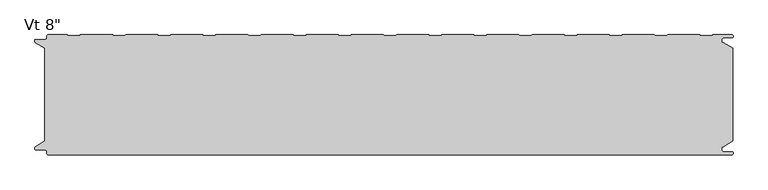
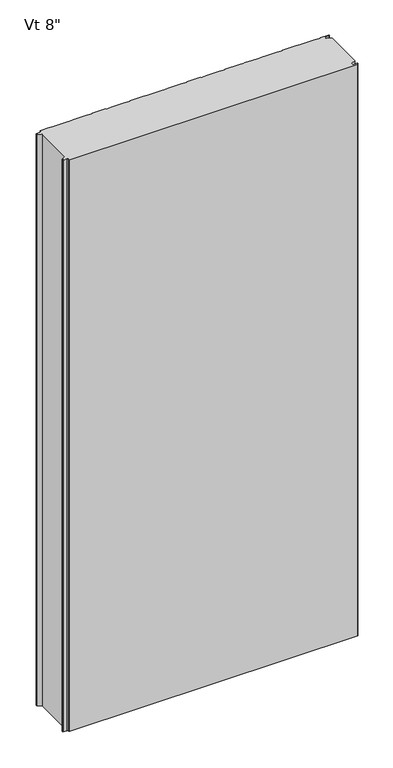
"""IFC4 building model written with IfcOpenShell, lengths in millimetres: plate geometry."""

from ifc_helpers import new_model, si_unit, frame, origin, place, context, project, spatial, polyline, circle_curve, source, transform, mapped, element, save
from ifc_brep_helpers import plane_surface, cylinder_surface, revolved_surface, advanced_brep


def plate_881e7684(model_context):
    return source(origin(), model_context, "Body", "AdvancedBrep", [
        advanced_brep(
        [(-572.4125501, -200.2227194, 2400.0), (-570.4352761, -202.1999935, 2400.0), (574.5475652, -202.2, 2400.0), (576.5248337, -200.2227315, 2400.0), (576.5248337, -199.1806329, 2400.0), (574.5475652, -197.2033643, 2400.0), (560.3591802, -197.2033643, 2400.0), (557.7713036, -194.6154878, 2400.0), (557.7713036, -190.2950697, 2400.0), (557.1628365, -189.7060762, 2400.0), (554.7857432, -189.7060762, 2400.0), (554.7857432, -188.7066023, 2400.0), (560.2280123, -188.7066023, 2400.0), (576.2625, -179.4490865, 2400.0), (576.2625, -23.7509179, 2400.0), (560.2280123, -14.4934021, 2400.0), (554.7857432, -14.4934021, 2400.0), (554.7857432, -13.4939282, 2400.0), (557.1628365, -13.4939282, 2400.0), (557.7713036, -12.9049347, 2400.0), (557.7713036, -8.5845165, 2400.0), (560.3591802, -5.99664, 2400.0), (574.5475652, -5.99664, 2400.0), (576.5248337, -4.0193715, 2400.0), (576.5248337, -2.9772729, 2400.0), (574.5475652, -1.0000044, 2400.0), (542.3760351, -1.0000044, 2400.0), (541.3035142, -2.1911595, 2400.0), (521.5205195, -2.1911595, 2400.0), (520.4479947, -1.0, 2400.0), (466.7534187, -1.0, 2400.0), (465.6808939, -2.1911595, 2400.0), (445.8978992, -2.1911595, 2400.0), (444.8253744, -1.0, 2400.0), (391.1307985, -1.0, 2400.0), (390.0582736, -2.1911595, 2400.0), (370.275279, -2.1911595, 2400.0), (369.2027541, -1.0, 2400.0), (315.5081782, -1.0, 2400.0), (314.4356534, -2.1911595, 2400.0), (294.6526587, -2.1911595, 2400.0), (293.5801339, -1.0, 2400.0), (239.885558, -1.0, 2400.0), (238.8130331, -2.1911595, 2400.0), (219.0300384, -2.1911595, 2400.0), (217.9575136, -1.0, 2400.0), (164.2629377, -1.0, 2400.0), (163.1904129, -2.1911595, 2400.0), (143.4074182, -2.1911595, 2400.0), (142.3348933, -1.0, 2400.0), (88.6403174, -1.0, 2400.0), (87.5677926, -2.1911595, 2400.0), (67.7847979, -2.1911595, 2400.0), (66.7122731, -1.0, 2400.0), (13.0176972, -1.0, 2400.0), (11.9451723, -2.1911595, 2400.0), (-7.8378224, -2.1911595, 2400.0), (-8.9103472, -1.0, 2400.0), (-62.6049231, -1.0, 2400.0), (-63.6774479, -2.1911595, 2400.0), (-83.4604426, -2.1911595, 2400.0), (-84.5329675, -1.0, 2400.0), (-138.2275434, -1.0, 2400.0), (-139.3000682, -2.1911595, 2400.0), (-159.0830629, -2.1911595, 2400.0), (-160.1555877, -1.0, 2400.0), (-213.8501636, -1.0, 2400.0), (-214.9226885, -2.1911595, 2400.0), (-234.7056831, -2.1911595, 2400.0), (-235.778208, -1.0, 2400.0), (-289.4727839, -1.0, 2400.0), (-290.5453087, -2.1911595, 2400.0), (-310.3283034, -2.1911595, 2400.0), (-311.4008282, -1.0, 2400.0), (-365.0954042, -1.0, 2400.0), (-366.167929, -2.1911595, 2400.0), (-385.9509237, -2.1911595, 2400.0), (-387.0234485, -1.0, 2400.0), (-440.7180244, -1.0, 2400.0), (-441.7905493, -2.1911595, 2400.0), (-461.5735439, -2.1911595, 2400.0), (-462.6460688, -1.0, 2400.0), (-516.3406447, -1.0, 2400.0), (-517.4131695, -2.1911595, 2400.0), (-537.1961642, -2.1911595, 2400.0), (-538.268689, -1.0000109, 2400.0), (-570.4352761, -1.0000109, 2400.0), (-572.4125501, -2.9772849, 2400.0), (-572.4125501, -5.2691749, 2400.0), (-576.3898173, -9.246442, 2400.0), (-591.9862417, -9.246442, 2400.0), (-592.5741186, -9.8343189, 2400.0), (-592.5741186, -12.9058679, 2400.0), (-591.986242, -13.4937446, 2400.0), (-589.6312064, -13.4937446, 2400.0), (-589.6312064, -14.4937446, 2400.0), (-591.9207851, -14.4937446, 2400.0), (-576.2625, -23.7509179, 2400.0), (-576.2625, -179.4490865, 2400.0), (-591.9207851, -188.7062598, 2400.0), (-589.6312064, -188.7062598, 2400.0), (-589.6312064, -189.7062598, 2400.0), (-591.986242, -189.7062598, 2400.0), (-592.5741186, -190.2941365, 2400.0), (-592.5741186, -193.3656854, 2400.0), (-591.9862417, -193.9535623, 2400.0), (-576.3898173, -193.9535623, 2400.0), (-572.4125501, -197.9308295, 2400.0), (-572.4125501, -200.2227194, 0.0), (-572.4125501, -197.9308295, 0.0), (-576.3898173, -193.9535623, 0.0), (-591.9862417, -193.9535623, 0.0), (-592.5741186, -193.3656854, 0.0), (-592.5741186, -190.2941365, 0.0), (-591.986242, -189.7062598, 0.0), (-589.6312064, -189.7062598, 0.0), (-589.6312064, -188.7062598, 0.0), (-591.9207851, -188.7062598, 0.0), (-576.2625, -179.4490865, 0.0), (-576.2625, -23.7509179, 0.0), (-591.9207851, -14.4937446, 0.0), (-589.6312064, -14.4937446, 0.0), (-589.6312064, -13.4937446, 0.0), (-591.986242, -13.4937446, 0.0), (-592.5741186, -12.9058679, 0.0), (-592.5741186, -9.8343189, 0.0), (-591.9862417, -9.246442, 0.0), (-576.3898173, -9.246442, 0.0), (-572.4125501, -5.2691749, 0.0), (-572.4125501, -2.9772849, 0.0), (-570.4352761, -1.0000109, 0.0), (-538.268689, -1.0000109, 0.0), (-537.1961642, -2.1911595, 0.0), (-517.4131695, -2.1911595, 0.0), (-516.3406447, -1.0, 0.0), (-462.6460688, -1.0, 0.0), (-461.5735439, -2.1911595, 0.0), (-441.7905493, -2.1911595, 0.0), (-440.7180244, -1.0, 0.0), (-387.0234485, -1.0, 0.0), (-385.9509237, -2.1911595, 0.0), (-366.167929, -2.1911595, 0.0), (-365.0954042, -1.0, 0.0), (-311.4008282, -1.0, 0.0), (-310.3283034, -2.1911595, 0.0), (-290.5453087, -2.1911595, 0.0), (-289.4727839, -1.0, 0.0), (-235.778208, -1.0, 0.0), (-234.7056831, -2.1911595, 0.0), (-214.9226885, -2.1911595, 0.0), (-213.8501636, -1.0, 0.0), (-160.1555877, -1.0, 0.0), (-159.0830629, -2.1911595, 0.0), (-139.3000682, -2.1911595, 0.0), (-138.2275434, -1.0, 0.0), (-84.5329675, -1.0, 0.0), (-83.4604426, -2.1911595, 0.0), (-63.6774479, -2.1911595, 0.0), (-62.6049231, -1.0, 0.0), (-8.9103472, -1.0, 0.0), (-7.8378224, -2.1911595, 0.0), (11.9451723, -2.1911595, 0.0), (13.0176972, -1.0, 0.0), (66.7122731, -1.0, 0.0), (67.7847979, -2.1911595, 0.0), (87.5677926, -2.1911595, 0.0), (88.6403174, -1.0, 0.0), (142.3348933, -1.0, 0.0), (143.4074182, -2.1911595, 0.0), (163.1904129, -2.1911595, 0.0), (164.2629377, -1.0, 0.0), (217.9575136, -1.0, 0.0), (219.0300384, -2.1911595, 0.0), (238.8130331, -2.1911595, 0.0), (239.885558, -1.0, 0.0), (293.5801339, -1.0, 0.0), (294.6526587, -2.1911595, 0.0), (314.4356534, -2.1911595, 0.0), (315.5081782, -1.0, 0.0), (369.2027541, -1.0, 0.0), (370.275279, -2.1911595, 0.0), (390.0582736, -2.1911595, 0.0), (391.1307985, -1.0, 0.0), (444.8253744, -1.0, 0.0), (445.8978992, -2.1911595, 0.0), (465.6808939, -2.1911595, 0.0), (466.7534187, -1.0, 0.0), (520.4479947, -1.0, 0.0), (521.5205195, -2.1911595, 0.0), (541.3035142, -2.1911595, 0.0), (542.3760351, -1.0000044, 0.0), (574.5475652, -1.0000044, 0.0), (576.5248337, -2.9772729, 0.0), (576.5248337, -4.0193715, 0.0), (574.5475652, -5.99664, 0.0), (560.3591802, -5.99664, 0.0), (557.7713036, -8.5845165, 0.0), (557.7713036, -12.9049347, 0.0), (557.1628365, -13.4939282, 0.0), (554.7857432, -13.4939282, 0.0), (554.7857432, -14.4934021, 0.0), (560.2280123, -14.4934021, 0.0), (576.2625, -23.7509179, 0.0), (576.2625, -179.4490865, 0.0), (560.2280123, -188.7066023, 0.0), (554.7857432, -188.7066023, 0.0), (554.7857432, -189.7060762, 0.0), (557.1628365, -189.7060762, 0.0), (557.7713036, -190.2950697, 0.0), (557.7713036, -194.6154878, 0.0), (560.3591802, -197.2033643, 0.0), (574.5475652, -197.2033643, 0.0), (576.5248337, -199.1806329, 0.0), (576.5248337, -200.2227315, 0.0), (574.5475652, -202.2, 0.0), (-570.4352761, -202.2, 0.0)],
        [
            (0, 1, circle_curve(frame((-570.4352761, -200.2227194, 2400.0), z_axis=(0.0, 0.0, 1.0), x_axis=(-1.0, 0.0, 0.0)), 1.977274)),
            (1, 2),
            (2, 3, circle_curve(frame((574.5475652, -200.2227315, 2400.0), z_axis=(0.0, 0.0, 1.0), x_axis=(-1.0, 0.0, 0.0)), 1.9772685)),
            (3, 4),
            (4, 5, circle_curve(frame((574.5475652, -199.1806329, 2400.0), z_axis=(0.0, 0.0, 1.0), x_axis=(-1.0, 0.0, 0.0)), 1.9772685)),
            (5, 6),
            (6, 7, circle_curve(frame((560.3591802, -194.6154878, 2400.0), z_axis=(0.0, 0.0, -1.0), x_axis=(-1.0, 0.0, 0.0)), 2.5878765)),
            (7, 8),
            (8, 9, circle_curve(frame((557.1819985, -190.2950697, 2400.0), z_axis=(0.0, 0.0, 1.0), x_axis=(-1.0, 0.0, 0.0)), 0.5893051)),
            (9, 10),
            (10, 11),
            (11, 12),
            (12, 13),
            (13, 14),
            (14, 15),
            (15, 16),
            (16, 17),
            (17, 18),
            (18, 19, circle_curve(frame((557.1819985, -12.9049347, 2400.0), z_axis=(0.0, 0.0, 1.0), x_axis=(0.0, 1.0, 0.0)), 0.5893051)),
            (19, 20),
            (20, 21, circle_curve(frame((560.3591802, -8.5845165, 2400.0), z_axis=(0.0, 0.0, -1.0), x_axis=(0.0, 1.0, 0.0)), 2.5878765)),
            (21, 22),
            (22, 23, circle_curve(frame((574.5475652, -4.0193715, 2400.0), z_axis=(0.0, 0.0, 1.0), x_axis=(0.0, 1.0, 0.0)), 1.9772685)),
            (23, 24),
            (24, 25, circle_curve(frame((574.5475652, -2.9772729, 2400.0), z_axis=(0.0, 0.0, 1.0), x_axis=(0.0, 1.0, 0.0)), 1.9772685)),
            (25, 26),
            (26, 27),
            (27, 28),
            (28, 29),
            (29, 30),
            (30, 31),
            (31, 32),
            (32, 33),
            (33, 34),
            (34, 35),
            (35, 36),
            (36, 37),
            (37, 38),
            (38, 39),
            (39, 40),
            (40, 41),
            (41, 42),
            (42, 43),
            (43, 44),
            (44, 45),
            (45, 46),
            (46, 47),
            (47, 48),
            (48, 49),
            (49, 50),
            (50, 51),
            (51, 52),
            (52, 53),
            (53, 54),
            (54, 55),
            (55, 56),
            (56, 57),
            (57, 58),
            (58, 59),
            (59, 60),
            (60, 61),
            (61, 62),
            (62, 63),
            (63, 64),
            (64, 65),
            (65, 66),
            (66, 67),
            (67, 68),
            (68, 69),
            (69, 70),
            (70, 71),
            (71, 72),
            (72, 73),
            (73, 74),
            (74, 75),
            (75, 76),
            (76, 77),
            (77, 78),
            (78, 79),
            (79, 80),
            (80, 81),
            (81, 82),
            (82, 83),
            (83, 84),
            (84, 85),
            (85, 86),
            (86, 87, circle_curve(frame((-570.4352761, -2.9772849, 2400.0), z_axis=(0.0, 0.0, 1.0), x_axis=(0.0, 1.0, 0.0)), 1.977274)),
            (87, 88),
            (88, 89, circle_curve(frame((-576.3898173, -5.2691749, 2400.0), z_axis=(0.0, 0.0, -1.0), x_axis=(0.0, 1.0, 0.0)), 3.9772671)),
            (89, 90),
            (90, 91, circle_curve(frame((-591.9862417, -9.8343189, 2400.0), z_axis=(0.0, 0.0, 1.0), x_axis=(0.0, 1.0, 0.0)), 0.5878769)),
            (91, 92),
            (92, 93, circle_curve(frame((-591.986242, -12.9058679, 2400.0), z_axis=(0.0, 0.0, 1.0), x_axis=(0.0, 1.0, 0.0)), 0.5878766)),
            (93, 94),
            (94, 95),
            (95, 96),
            (96, 97),
            (97, 98),
            (98, 99),
            (99, 100),
            (100, 101),
            (101, 102),
            (102, 103, circle_curve(frame((-591.986242, -190.2941365, 2400.0), z_axis=(0.0, 0.0, 1.0), x_axis=(-1.0, 0.0, 0.0)), 0.5878766)),
            (103, 104),
            (104, 105, circle_curve(frame((-591.9862417, -193.3656854, 2400.0), z_axis=(0.0, 0.0, 1.0), x_axis=(-1.0, 0.0, 0.0)), 0.5878769)),
            (105, 106),
            (106, 107, circle_curve(frame((-576.3898173, -197.9308295, 2400.0), z_axis=(0.0, 0.0, -1.0), x_axis=(-1.0, 0.0, 0.0)), 3.9772671)),
            (107, 0),
            (108, 109),
            (109, 110, circle_curve(frame((-576.3898173, -197.9308295, 0.0), z_axis=(0.0, 0.0, 1.0), x_axis=(-1.0, 0.0, 0.0)), 3.9772671)),
            (110, 111),
            (111, 112, circle_curve(frame((-591.9862417, -193.3656854, 0.0), z_axis=(0.0, 0.0, -1.0), x_axis=(-1.0, 0.0, 0.0)), 0.5878769)),
            (112, 113),
            (113, 114, circle_curve(frame((-591.986242, -190.2941365, 0.0), z_axis=(0.0, 0.0, -1.0), x_axis=(-1.0, 0.0, 0.0)), 0.5878766)),
            (114, 115),
            (115, 116),
            (116, 117),
            (117, 118),
            (118, 119),
            (119, 120),
            (120, 121),
            (121, 122),
            (122, 123),
            (123, 124, circle_curve(frame((-591.986242, -12.9058679, 0.0), z_axis=(0.0, 0.0, -1.0), x_axis=(0.0, 1.0, 0.0)), 0.5878766)),
            (124, 125),
            (125, 126, circle_curve(frame((-591.9862417, -9.8343189, 0.0), z_axis=(0.0, 0.0, -1.0), x_axis=(0.0, 1.0, 0.0)), 0.5878769)),
            (126, 127),
            (127, 128, circle_curve(frame((-576.3898173, -5.2691749, 0.0), z_axis=(0.0, 0.0, 1.0), x_axis=(0.0, 1.0, 0.0)), 3.9772671)),
            (128, 129),
            (129, 130, circle_curve(frame((-570.4352761, -2.9772849, 0.0), z_axis=(0.0, 0.0, -1.0), x_axis=(0.0, 1.0, 0.0)), 1.977274)),
            (130, 131),
            (131, 132),
            (132, 133),
            (133, 134),
            (134, 135),
            (135, 136),
            (136, 137),
            (137, 138),
            (138, 139),
            (139, 140),
            (140, 141),
            (141, 142),
            (142, 143),
            (143, 144),
            (144, 145),
            (145, 146),
            (146, 147),
            (147, 148),
            (148, 149),
            (149, 150),
            (150, 151),
            (151, 152),
            (152, 153),
            (153, 154),
            (154, 155),
            (155, 156),
            (156, 157),
            (157, 158),
            (158, 159),
            (159, 160),
            (160, 161),
            (161, 162),
            (162, 163),
            (163, 164),
            (164, 165),
            (165, 166),
            (166, 167),
            (167, 168),
            (168, 169),
            (169, 170),
            (170, 171),
            (171, 172),
            (172, 173),
            (173, 174),
            (174, 175),
            (175, 176),
            (176, 177),
            (177, 178),
            (178, 179),
            (179, 180),
            (180, 181),
            (181, 182),
            (182, 183),
            (183, 184),
            (184, 185),
            (185, 186),
            (186, 187),
            (187, 188),
            (188, 189),
            (189, 190),
            (190, 191),
            (191, 192, circle_curve(frame((574.5475652, -2.9772729, 0.0), z_axis=(0.0, 0.0, -1.0), x_axis=(0.0, 1.0, 0.0)), 1.9772685)),
            (192, 193),
            (193, 194, circle_curve(frame((574.5475652, -4.0193715, 0.0), z_axis=(0.0, 0.0, -1.0), x_axis=(0.0, 1.0, 0.0)), 1.9772685)),
            (194, 195),
            (195, 196, circle_curve(frame((560.3591802, -8.5845165, 0.0), z_axis=(0.0, 0.0, 1.0), x_axis=(0.0, 1.0, 0.0)), 2.5878765)),
            (196, 197),
            (197, 198, circle_curve(frame((557.1819985, -12.9049347, 0.0), z_axis=(0.0, 0.0, -1.0), x_axis=(0.0, 1.0, 0.0)), 0.5893051)),
            (198, 199),
            (199, 200),
            (200, 201),
            (201, 202),
            (202, 203),
            (203, 204),
            (204, 205),
            (205, 206),
            (206, 207),
            (207, 208, circle_curve(frame((557.1819985, -190.2950697, 0.0), z_axis=(0.0, 0.0, -1.0), x_axis=(-1.0, 0.0, 0.0)), 0.5893051)),
            (208, 209),
            (209, 210, circle_curve(frame((560.3591802, -194.6154878, 0.0), z_axis=(0.0, 0.0, 1.0), x_axis=(-1.0, 0.0, 0.0)), 2.5878765)),
            (210, 211),
            (211, 212, circle_curve(frame((574.5475652, -199.1806329, 0.0), z_axis=(0.0, 0.0, -1.0), x_axis=(-1.0, 0.0, 0.0)), 1.9772685)),
            (212, 213),
            (213, 214, circle_curve(frame((574.5475652, -200.2227315, 0.0), z_axis=(0.0, 0.0, -1.0), x_axis=(-1.0, 0.0, 0.0)), 1.9772685)),
            (214, 215),
            (215, 108, circle_curve(frame((-570.4352761, -200.2227194, 0.0), z_axis=(0.0, 0.0, -1.0), x_axis=(-1.0, 0.0, 0.0)), 1.977274)),
            (97, 119),
            (118, 98),
            (13, 203),
            (202, 14),
            (27, 189),
            (188, 28),
            (26, 190),
            (25, 191),
            (24, 192),
            (23, 193),
            (22, 194),
            (21, 195),
            (20, 196),
            (19, 197),
            (18, 198),
            (17, 199),
            (16, 200),
            (15, 201),
            (96, 120),
            (95, 121),
            (94, 122),
            (93, 123),
            (92, 124),
            (91, 125),
            (90, 126),
            (89, 127),
            (88, 128),
            (87, 129),
            (86, 130),
            (85, 131),
            (84, 132),
            (83, 133),
            (82, 134),
            (81, 135),
            (80, 136),
            (79, 137),
            (78, 138),
            (77, 139),
            (76, 140),
            (75, 141),
            (74, 142),
            (73, 143),
            (72, 144),
            (71, 145),
            (70, 146),
            (69, 147),
            (68, 148),
            (67, 149),
            (66, 150),
            (65, 151),
            (64, 152),
            (63, 153),
            (62, 154),
            (61, 155),
            (60, 156),
            (59, 157),
            (58, 158),
            (57, 159),
            (56, 160),
            (55, 161),
            (54, 162),
            (53, 163),
            (52, 164),
            (51, 165),
            (50, 166),
            (49, 167),
            (48, 168),
            (47, 169),
            (46, 170),
            (45, 171),
            (44, 172),
            (43, 173),
            (42, 174),
            (41, 175),
            (40, 176),
            (39, 177),
            (38, 178),
            (37, 179),
            (36, 180),
            (35, 181),
            (34, 182),
            (33, 183),
            (32, 184),
            (31, 185),
            (30, 186),
            (29, 187),
            (107, 109),
            (108, 0),
            (106, 110),
            (105, 111),
            (104, 112),
            (103, 113),
            (102, 114),
            (101, 115),
            (100, 116),
            (99, 117),
            (12, 204),
            (11, 205),
            (10, 206),
            (9, 207),
            (8, 208),
            (7, 209),
            (6, 210),
            (5, 211),
            (4, 212),
            (3, 213),
            (2, 214),
            (1, 215),
        ],
        [
            plane_surface(frame((0.0, -202.2, 2400.0), z_axis=(0.0, 0.0, 1.0), x_axis=(0.0, -1.0, 0.0))),
            plane_surface(frame((0.0, -202.2, 0.0), z_axis=(0.0, 0.0, -1.0), x_axis=(0.0, -1.0, 0.0))),
            plane_surface(frame((-576.2625, -179.4490865, 2400.0), z_axis=(-1.0, 0.0, 0.0), x_axis=(0.0, 0.0, -1.0))),
            plane_surface(frame((576.2625, -23.7509179, 2400.0), z_axis=(1.0, 0.0, 0.0), x_axis=(0.0, 0.0, -1.0))),
            plane_surface(frame((521.5205195, -2.1911595, 2400.0), z_axis=(0.0, 1.0, 0.0), x_axis=(0.0, 0.0, -1.0))),
            plane_surface(frame((541.3035142, -2.1911595, 2400.0), z_axis=(-0.7431448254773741, 0.6691306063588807, 0.0), x_axis=(0.0, 0.0, -1.0))),
            plane_surface(frame((542.3760351, -1.0000044, 2400.0), z_axis=(0.0, 1.0, 0.0), x_axis=(0.0, 0.0, -1.0))),
            cylinder_surface(frame((574.5475652, -2.9772729, 2400.0), z_axis=(0.0, 0.0, 1.0), x_axis=(0.0, 1.0, 0.0)), 1.9772685),
            plane_surface(frame((576.5248337, -2.9772729, 2400.0), z_axis=(1.0, 0.0, 0.0), x_axis=(0.0, 0.0, -1.0))),
            cylinder_surface(frame((574.5475652, -4.0193715, 2400.0), z_axis=(0.0, 0.0, 1.0), x_axis=(0.0, 1.0, 0.0)), 1.9772685),
            plane_surface(frame((574.5475652, -5.99664, 2400.0), z_axis=(0.0, -1.0, 0.0), x_axis=(0.0, 0.0, -1.0))),
            revolved_surface(polyline([(560.3591802, -5.996639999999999, 0.0), (560.3591802, -5.996639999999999, 2400.0)]), (560.3591802, -8.5845165, 2400.0), (0.0, 0.0, -1.0)),
            plane_surface(frame((557.7713036, -8.5845165, 2400.0), z_axis=(1.0, 0.0, 0.0), x_axis=(0.0, 0.0, -1.0))),
            cylinder_surface(frame((557.1819985, -12.9049347, 2400.0), z_axis=(0.0, 0.0, 1.0), x_axis=(0.0, 1.0, 0.0)), 0.5893051),
            plane_surface(frame((557.1628365, -13.4939282, 2400.0), z_axis=(0.0, -1.0, 0.0), x_axis=(0.0, 0.0, -1.0))),
            plane_surface(frame((554.7857432, -13.4939282, 2400.0), z_axis=(1.0, 0.0, 0.0), x_axis=(0.0, 0.0, -1.0))),
            plane_surface(frame((554.7857432, -14.4934021, 2400.0), z_axis=(0.0, 1.0, 0.0), x_axis=(0.0, 0.0, -1.0))),
            plane_surface(frame((560.2280123, -14.4934021, 2400.0), z_axis=(0.5000000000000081, 0.866025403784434, 0.0), x_axis=(0.0, 0.0, -1.0))),
            plane_surface(frame((-576.2625, -23.7509179, 2400.0), z_axis=(-0.5089147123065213, -0.860816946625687, 0.0), x_axis=(0.0, 0.0, -1.0))),
            plane_surface(frame((-591.9207851, -14.4937446, 2400.0), z_axis=(0.0, 1.0, 0.0), x_axis=(0.0, 0.0, -1.0))),
            plane_surface(frame((-589.6312064, -14.4937446, 2400.0), z_axis=(-1.0, 0.0, 0.0), x_axis=(0.0, 0.0, -1.0))),
            plane_surface(frame((-589.6312064, -13.4937446, 2400.0), z_axis=(0.0, -1.0, 0.0), x_axis=(0.0, 0.0, -1.0))),
            cylinder_surface(frame((-591.986242, -12.9058679, 2400.0), z_axis=(0.0, 0.0, 1.0), x_axis=(0.0, 1.0, 0.0)), 0.5878766),
            plane_surface(frame((-592.5741186, -12.9058679, 2400.0), z_axis=(-1.0, 0.0, 0.0), x_axis=(0.0, 0.0, -1.0))),
            cylinder_surface(frame((-591.9862417, -9.8343189, 2400.0), z_axis=(0.0, 0.0, 1.0), x_axis=(0.0, 1.0, 0.0)), 0.5878769),
            plane_surface(frame((-591.9862417, -9.246442, 2400.0), z_axis=(0.0, 1.0, 0.0), x_axis=(0.0, 0.0, -1.0))),
            revolved_surface(polyline([(-576.3898173, -1.2919078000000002, 0.0), (-576.3898173, -1.2919078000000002, 2400.0)]), (-576.3898173, -5.2691749, 2400.0), (0.0, 0.0, -1.0)),
            plane_surface(frame((-572.4125501, -5.2691749, 2400.0), z_axis=(-1.0, 0.0, 0.0), x_axis=(0.0, 0.0, -1.0))),
            cylinder_surface(frame((-570.4352761, -2.9772849, 2400.0), z_axis=(0.0, 0.0, 1.0), x_axis=(0.0, 1.0, 0.0)), 1.977274),
            plane_surface(frame((-570.4352761, -1.0000109, 2400.0), z_axis=(0.0, 1.0, 0.0), x_axis=(0.0, 0.0, -1.0))),
            plane_surface(frame((-538.268689, -1.0000109, 2400.0), z_axis=(0.7431417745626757, 0.669133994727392, 0.0), x_axis=(0.0, 0.0, -1.0))),
            plane_surface(frame((-537.1961642, -2.1911595, 2400.0), z_axis=(0.0, 1.0, 0.0), x_axis=(0.0, 0.0, -1.0))),
            plane_surface(frame((-517.4131695, -2.1911595, 2400.0), z_axis=(-0.7431448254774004, 0.6691306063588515, 0.0), x_axis=(0.0, 0.0, -1.0))),
            plane_surface(frame((-516.3406447, -1.0, 2400.0), z_axis=(0.0, 1.0, 0.0), x_axis=(0.0, 0.0, -1.0))),
            plane_surface(frame((-462.6460688, -1.0, 2400.0), z_axis=(0.7431448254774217, 0.6691306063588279, 0.0), x_axis=(0.0, 0.0, -1.0))),
            plane_surface(frame((-461.5735439, -2.1911595, 2400.0), z_axis=(0.0, 1.0, 0.0), x_axis=(0.0, 0.0, -1.0))),
            plane_surface(frame((-441.7905493, -2.1911595, 2400.0), z_axis=(-0.7431448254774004, 0.6691306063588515, 0.0), x_axis=(0.0, 0.0, -1.0))),
            plane_surface(frame((-440.7180244, -1.0, 2400.0), z_axis=(0.0, 1.0, 0.0), x_axis=(0.0, 0.0, -1.0))),
            plane_surface(frame((-387.0234485, -1.0, 2400.0), z_axis=(0.7431448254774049, 0.6691306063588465, 0.0), x_axis=(0.0, 0.0, -1.0))),
            plane_surface(frame((-385.9509237, -2.1911595, 2400.0), z_axis=(0.0, 1.0, 0.0), x_axis=(0.0, 0.0, -1.0))),
            plane_surface(frame((-366.167929, -2.1911595, 2400.0), z_axis=(-0.7431448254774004, 0.6691306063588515, 0.0), x_axis=(0.0, 0.0, -1.0))),
            plane_surface(frame((-365.0954042, -1.0, 2400.0), z_axis=(0.0, 1.0, 0.0), x_axis=(0.0, 0.0, -1.0))),
            plane_surface(frame((-311.4008282, -1.0, 2400.0), z_axis=(0.7431448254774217, 0.6691306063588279, 0.0), x_axis=(0.0, 0.0, -1.0))),
            plane_surface(frame((-310.3283034, -2.1911595, 2400.0), z_axis=(0.0, 1.0, 0.0), x_axis=(0.0, 0.0, -1.0))),
            plane_surface(frame((-290.5453087, -2.1911595, 2400.0), z_axis=(-0.7431448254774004, 0.6691306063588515, 0.0), x_axis=(0.0, 0.0, -1.0))),
            plane_surface(frame((-289.4727839, -1.0, 2400.0), z_axis=(0.0, 1.0, 0.0), x_axis=(0.0, 0.0, -1.0))),
            plane_surface(frame((-235.778208, -1.0, 2400.0), z_axis=(0.7431448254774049, 0.6691306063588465, 0.0), x_axis=(0.0, 0.0, -1.0))),
            plane_surface(frame((-234.7056831, -2.1911595, 2400.0), z_axis=(0.0, 1.0, 0.0), x_axis=(0.0, 0.0, -1.0))),
            plane_surface(frame((-214.9226885, -2.1911595, 2400.0), z_axis=(-0.7431448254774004, 0.6691306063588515, 0.0), x_axis=(0.0, 0.0, -1.0))),
            plane_surface(frame((-213.8501636, -1.0, 2400.0), z_axis=(0.0, 1.0, 0.0), x_axis=(0.0, 0.0, -1.0))),
            plane_surface(frame((-160.1555877, -1.0, 2400.0), z_axis=(0.7431448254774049, 0.6691306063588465, 0.0), x_axis=(0.0, 0.0, -1.0))),
            plane_surface(frame((-159.0830629, -2.1911595, 2400.0), z_axis=(0.0, 1.0, 0.0), x_axis=(0.0, 0.0, -1.0))),
            plane_surface(frame((-139.3000682, -2.1911595, 2400.0), z_axis=(-0.7431448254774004, 0.6691306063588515, 0.0), x_axis=(0.0, 0.0, -1.0))),
            plane_surface(frame((-138.2275434, -1.0, 2400.0), z_axis=(0.0, 1.0, 0.0), x_axis=(0.0, 0.0, -1.0))),
            plane_surface(frame((-84.5329675, -1.0, 2400.0), z_axis=(0.7431448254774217, 0.6691306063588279, 0.0), x_axis=(0.0, 0.0, -1.0))),
            plane_surface(frame((-83.4604426, -2.1911595, 2400.0), z_axis=(0.0, 1.0, 0.0), x_axis=(0.0, 0.0, -1.0))),
            plane_surface(frame((-63.6774479, -2.1911595, 2400.0), z_axis=(-0.7431448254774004, 0.6691306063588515, 0.0), x_axis=(0.0, 0.0, -1.0))),
            plane_surface(frame((-62.6049231, -1.0, 2400.0), z_axis=(0.0, 1.0, 0.0), x_axis=(0.0, 0.0, -1.0))),
            plane_surface(frame((-8.9103472, -1.0, 2400.0), z_axis=(0.7431448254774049, 0.6691306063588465, 0.0), x_axis=(0.0, 0.0, -1.0))),
            plane_surface(frame((-7.8378224, -2.1911595, 2400.0), z_axis=(0.0, 1.0, 0.0), x_axis=(0.0, 0.0, -1.0))),
            plane_surface(frame((11.9451723, -2.1911595, 2400.0), z_axis=(-0.7431448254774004, 0.6691306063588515, 0.0), x_axis=(0.0, 0.0, -1.0))),
            plane_surface(frame((13.0176972, -1.0, 2400.0), z_axis=(0.0, 1.0, 0.0), x_axis=(0.0, 0.0, -1.0))),
            plane_surface(frame((66.7122731, -1.0, 2400.0), z_axis=(0.7431448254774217, 0.6691306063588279, 0.0), x_axis=(0.0, 0.0, -1.0))),
            plane_surface(frame((67.7847979, -2.1911595, 2400.0), z_axis=(0.0, 1.0, 0.0), x_axis=(0.0, 0.0, -1.0))),
            plane_surface(frame((87.5677926, -2.1911595, 2400.0), z_axis=(-0.7431448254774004, 0.6691306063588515, 0.0), x_axis=(0.0, 0.0, -1.0))),
            plane_surface(frame((88.6403174, -1.0, 2400.0), z_axis=(0.0, 1.0, 0.0), x_axis=(0.0, 0.0, -1.0))),
            plane_surface(frame((142.3348933, -1.0, 2400.0), z_axis=(0.7431448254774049, 0.6691306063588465, 0.0), x_axis=(0.0, 0.0, -1.0))),
            plane_surface(frame((143.4074182, -2.1911595, 2400.0), z_axis=(0.0, 1.0, 0.0), x_axis=(0.0, 0.0, -1.0))),
            plane_surface(frame((163.1904129, -2.1911595, 2400.0), z_axis=(-0.7431448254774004, 0.6691306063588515, 0.0), x_axis=(0.0, 0.0, -1.0))),
            plane_surface(frame((164.2629377, -1.0, 2400.0), z_axis=(0.0, 1.0, 0.0), x_axis=(0.0, 0.0, -1.0))),
            plane_surface(frame((217.9575136, -1.0, 2400.0), z_axis=(0.7431448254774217, 0.6691306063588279, 0.0), x_axis=(0.0, 0.0, -1.0))),
            plane_surface(frame((219.0300384, -2.1911595, 2400.0), z_axis=(0.0, 1.0, 0.0), x_axis=(0.0, 0.0, -1.0))),
            plane_surface(frame((238.8130331, -2.1911595, 2400.0), z_axis=(-0.7431448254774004, 0.6691306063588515, 0.0), x_axis=(0.0, 0.0, -1.0))),
            plane_surface(frame((239.885558, -1.0, 2400.0), z_axis=(0.0, 1.0, 0.0), x_axis=(0.0, 0.0, -1.0))),
            plane_surface(frame((293.5801339, -1.0, 2400.0), z_axis=(0.7431448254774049, 0.6691306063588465, 0.0), x_axis=(0.0, 0.0, -1.0))),
            plane_surface(frame((294.6526587, -2.1911595, 2400.0), z_axis=(0.0, 1.0, 0.0), x_axis=(0.0, 0.0, -1.0))),
            plane_surface(frame((314.4356534, -2.1911595, 2400.0), z_axis=(-0.7431448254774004, 0.6691306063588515, 0.0), x_axis=(0.0, 0.0, -1.0))),
            plane_surface(frame((315.5081782, -1.0, 2400.0), z_axis=(0.0, 1.0, 0.0), x_axis=(0.0, 0.0, -1.0))),
            plane_surface(frame((369.2027541, -1.0, 2400.0), z_axis=(0.7431448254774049, 0.6691306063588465, 0.0), x_axis=(0.0, 0.0, -1.0))),
            plane_surface(frame((370.275279, -2.1911595, 2400.0), z_axis=(0.0, 1.0, 0.0), x_axis=(0.0, 0.0, -1.0))),
            plane_surface(frame((390.0582736, -2.1911595, 2400.0), z_axis=(-0.7431448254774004, 0.6691306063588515, 0.0), x_axis=(0.0, 0.0, -1.0))),
            plane_surface(frame((391.1307985, -1.0, 2400.0), z_axis=(0.0, 1.0, 0.0), x_axis=(0.0, 0.0, -1.0))),
            plane_surface(frame((444.8253744, -1.0, 2400.0), z_axis=(0.7431448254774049, 0.6691306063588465, 0.0), x_axis=(0.0, 0.0, -1.0))),
            plane_surface(frame((445.8978992, -2.1911595, 2400.0), z_axis=(0.0, 1.0, 0.0), x_axis=(0.0, 0.0, -1.0))),
            plane_surface(frame((465.6808939, -2.1911595, 2400.0), z_axis=(-0.7431448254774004, 0.6691306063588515, 0.0), x_axis=(0.0, 0.0, -1.0))),
            plane_surface(frame((466.7534187, -1.0, 2400.0), z_axis=(0.0, 1.0, 0.0), x_axis=(0.0, 0.0, -1.0))),
            plane_surface(frame((520.4479947, -1.0, 2400.0), z_axis=(0.7431448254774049, 0.6691306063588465, 0.0), x_axis=(0.0, 0.0, -1.0))),
            plane_surface(frame((-572.4125501, -200.2227194, 2400.0), z_axis=(-1.0, 0.0, 0.0), x_axis=(0.0, 0.0, -1.0))),
            revolved_surface(polyline([(-580.3670844, -197.9308295, 0.0), (-580.3670844, -197.9308295, 2400.0)]), (-576.3898173, -197.9308295, 2400.0), (0.0, 0.0, -1.0)),
            plane_surface(frame((-576.3898173, -193.9535623, 2400.0), z_axis=(0.0, -1.0, 0.0), x_axis=(0.0, 0.0, -1.0))),
            cylinder_surface(frame((-591.9862417, -193.3656854, 2400.0), z_axis=(0.0, 0.0, 1.0), x_axis=(-1.0, 0.0, 0.0)), 0.5878769),
            plane_surface(frame((-592.5741186, -193.3656854, 2400.0), z_axis=(-1.0, 0.0, 0.0), x_axis=(0.0, 0.0, -1.0))),
            cylinder_surface(frame((-591.986242, -190.2941365, 2400.0), z_axis=(0.0, 0.0, 1.0), x_axis=(-1.0, 0.0, 0.0)), 0.5878766),
            plane_surface(frame((-591.986242, -189.7062598, 2400.0), z_axis=(0.0, 1.0, 0.0), x_axis=(0.0, 0.0, -1.0))),
            plane_surface(frame((-589.6312064, -189.7062598, 2400.0), z_axis=(-1.0, 0.0, 0.0), x_axis=(0.0, 0.0, -1.0))),
            plane_surface(frame((-589.6312064, -188.7062598, 2400.0), z_axis=(0.0, -1.0, 0.0), x_axis=(0.0, 0.0, -1.0))),
            plane_surface(frame((-591.9207851, -188.7062598, 2400.0), z_axis=(-0.5089147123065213, 0.860816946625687, 0.0), x_axis=(0.0, 0.0, -1.0))),
            plane_surface(frame((576.2625, -179.4490865, 2400.0), z_axis=(0.500000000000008, -0.866025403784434, 0.0), x_axis=(0.0, 0.0, -1.0))),
            plane_surface(frame((560.2280123, -188.7066023, 2400.0), z_axis=(0.0, -1.0, 0.0), x_axis=(0.0, 0.0, -1.0))),
            plane_surface(frame((554.7857432, -188.7066023, 2400.0), z_axis=(1.0, 0.0, 0.0), x_axis=(0.0, 0.0, -1.0))),
            plane_surface(frame((554.7857432, -189.7060762, 2400.0), z_axis=(0.0, 1.0, 0.0), x_axis=(0.0, 0.0, -1.0))),
            cylinder_surface(frame((557.1819985, -190.2950697, 2400.0), z_axis=(0.0, 0.0, 1.0), x_axis=(-1.0, 0.0, 0.0)), 0.5893051),
            plane_surface(frame((557.7713036, -190.2950697, 2400.0), z_axis=(1.0, 0.0, 0.0), x_axis=(0.0, 0.0, -1.0))),
            revolved_surface(polyline([(557.7713037, -194.6154878, 0.0), (557.7713037, -194.6154878, 2400.0)]), (560.3591802, -194.6154878, 2400.0), (0.0, 0.0, -1.0)),
            plane_surface(frame((560.3591802, -197.2033643, 2400.0), z_axis=(0.0, 1.0, 0.0), x_axis=(0.0, 0.0, -1.0))),
            cylinder_surface(frame((574.5475652, -199.1806329, 2400.0), z_axis=(0.0, 0.0, 1.0), x_axis=(-1.0, 0.0, 0.0)), 1.9772685),
            plane_surface(frame((576.5248337, -199.1806329, 2400.0), z_axis=(1.0, 0.0, 0.0), x_axis=(0.0, 0.0, -1.0))),
            cylinder_surface(frame((574.5475652, -200.2227315, 2400.0), z_axis=(0.0, 0.0, 1.0), x_axis=(-1.0, 0.0, 0.0)), 1.9772685),
            plane_surface(frame((574.5475652, -202.2, 2400.0), z_axis=(0.0, -1.0, 0.0), x_axis=(0.0, 0.0, -1.0))),
            cylinder_surface(frame((-570.4352761, -200.2227194, 2400.0), z_axis=(0.0, 0.0, 1.0), x_axis=(-1.0, 0.0, 0.0)), 1.977274),
        ],
        [
            (0, [[1, 2, 3, 4, 5, 6, 7, 8, 9, 10, 11, 12, 13, 14, 15, 16, 17, 18, 19, 20, 21, 22, 23, 24, 25, 26, 27, 28, 29, 30, 31, 32, 33, 34, 35, 36, 37, 38, 39, 40, 41, 42, 43, 44, 45, 46, 47, 48, 49, 50, 51, 52, 53, 54, 55, 56, 57, 58, 59, 60, 61, 62, 63, 64, 65, 66, 67, 68, 69, 70, 71, 72, 73, 74, 75, 76, 77, 78, 79, 80, 81, 82, 83, 84, 85, 86, 87, 88, 89, 90, 91, 92, 93, 94, 95, 96, 97, 98, 99, 100, 101, 102, 103, 104, 105, 106, 107, 108]]),
            (1, [[109, 110, 111, 112, 113, 114, 115, 116, 117, 118, 119, 120, 121, 122, 123, 124, 125, 126, 127, 128, 129, 130, 131, 132, 133, 134, 135, 136, 137, 138, 139, 140, 141, 142, 143, 144, 145, 146, 147, 148, 149, 150, 151, 152, 153, 154, 155, 156, 157, 158, 159, 160, 161, 162, 163, 164, 165, 166, 167, 168, 169, 170, 171, 172, 173, 174, 175, 176, 177, 178, 179, 180, 181, 182, 183, 184, 185, 186, 187, 188, 189, 190, 191, 192, 193, 194, 195, 196, 197, 198, 199, 200, 201, 202, 203, 204, 205, 206, 207, 208, 209, 210, 211, 212, 213, 214, 215, 216]]),
            (2, [[217, -119, 218, -98]]),
            (3, [[219, -203, 220, -14]]),
            (4, [[221, -189, 222, -28]]),
            (5, [[223, -190, -221, -27]]),
            (6, [[224, -191, -223, -26]]),
            (7, [[225, -192, -224, -25]]),
            (8, [[226, -193, -225, -24]]),
            (9, [[227, -194, -226, -23]]),
            (10, [[228, -195, -227, -22]]),
            (11, [[229, -196, -228, -21]]),
            (12, [[230, -197, -229, -20]]),
            (13, [[231, -198, -230, -19]]),
            (14, [[232, -199, -231, -18]]),
            (15, [[233, -200, -232, -17]]),
            (16, [[234, -201, -233, -16]]),
            (17, [[-220, -202, -234, -15]]),
            (18, [[235, -120, -217, -97]]),
            (19, [[236, -121, -235, -96]]),
            (20, [[237, -122, -236, -95]]),
            (21, [[238, -123, -237, -94]]),
            (22, [[239, -124, -238, -93]]),
            (23, [[240, -125, -239, -92]]),
            (24, [[241, -126, -240, -91]]),
            (25, [[242, -127, -241, -90]]),
            (26, [[243, -128, -242, -89]]),
            (27, [[244, -129, -243, -88]]),
            (28, [[245, -130, -244, -87]]),
            (29, [[246, -131, -245, -86]]),
            (30, [[247, -132, -246, -85]]),
            (31, [[248, -133, -247, -84]]),
            (32, [[249, -134, -248, -83]]),
            (33, [[250, -135, -249, -82]]),
            (34, [[251, -136, -250, -81]]),
            (35, [[252, -137, -251, -80]]),
            (36, [[253, -138, -252, -79]]),
            (37, [[254, -139, -253, -78]]),
            (38, [[255, -140, -254, -77]]),
            (39, [[256, -141, -255, -76]]),
            (40, [[257, -142, -256, -75]]),
            (41, [[258, -143, -257, -74]]),
            (42, [[259, -144, -258, -73]]),
            (43, [[260, -145, -259, -72]]),
            (44, [[261, -146, -260, -71]]),
            (45, [[262, -147, -261, -70]]),
            (46, [[263, -148, -262, -69]]),
            (47, [[264, -149, -263, -68]]),
            (48, [[265, -150, -264, -67]]),
            (49, [[266, -151, -265, -66]]),
            (50, [[267, -152, -266, -65]]),
            (51, [[268, -153, -267, -64]]),
            (52, [[269, -154, -268, -63]]),
            (53, [[270, -155, -269, -62]]),
            (54, [[271, -156, -270, -61]]),
            (55, [[272, -157, -271, -60]]),
            (56, [[273, -158, -272, -59]]),
            (57, [[274, -159, -273, -58]]),
            (58, [[275, -160, -274, -57]]),
            (59, [[276, -161, -275, -56]]),
            (60, [[277, -162, -276, -55]]),
            (61, [[278, -163, -277, -54]]),
            (62, [[279, -164, -278, -53]]),
            (63, [[280, -165, -279, -52]]),
            (64, [[281, -166, -280, -51]]),
            (65, [[282, -167, -281, -50]]),
            (66, [[283, -168, -282, -49]]),
            (67, [[284, -169, -283, -48]]),
            (68, [[285, -170, -284, -47]]),
            (69, [[286, -171, -285, -46]]),
            (70, [[287, -172, -286, -45]]),
            (71, [[288, -173, -287, -44]]),
            (72, [[289, -174, -288, -43]]),
            (73, [[290, -175, -289, -42]]),
            (74, [[291, -176, -290, -41]]),
            (75, [[292, -177, -291, -40]]),
            (76, [[293, -178, -292, -39]]),
            (77, [[294, -179, -293, -38]]),
            (78, [[295, -180, -294, -37]]),
            (79, [[296, -181, -295, -36]]),
            (80, [[297, -182, -296, -35]]),
            (81, [[298, -183, -297, -34]]),
            (82, [[299, -184, -298, -33]]),
            (83, [[300, -185, -299, -32]]),
            (84, [[301, -186, -300, -31]]),
            (85, [[302, -187, -301, -30]]),
            (86, [[-222, -188, -302, -29]]),
            (87, [[303, -109, 304, -108]]),
            (88, [[305, -110, -303, -107]]),
            (89, [[306, -111, -305, -106]]),
            (90, [[307, -112, -306, -105]]),
            (91, [[308, -113, -307, -104]]),
            (92, [[309, -114, -308, -103]]),
            (93, [[310, -115, -309, -102]]),
            (94, [[311, -116, -310, -101]]),
            (95, [[312, -117, -311, -100]]),
            (96, [[-218, -118, -312, -99]]),
            (97, [[313, -204, -219, -13]]),
            (98, [[314, -205, -313, -12]]),
            (99, [[315, -206, -314, -11]]),
            (100, [[316, -207, -315, -10]]),
            (101, [[317, -208, -316, -9]]),
            (102, [[318, -209, -317, -8]]),
            (103, [[319, -210, -318, -7]]),
            (104, [[320, -211, -319, -6]]),
            (105, [[321, -212, -320, -5]]),
            (106, [[322, -213, -321, -4]]),
            (107, [[323, -214, -322, -3]]),
            (108, [[324, -215, -323, -2]]),
            (109, [[-304, -216, -324, -1]]),
        ],
    ),
    ])


if __name__ == "__main__":
    model = new_model("IFC4")
    model_context = context("Model", 3, world=origin())
    ifc_project = project(units=[si_unit("LENGTHUNIT", "METRE", prefix="MILLI")], contexts=[model_context])
    site = spatial("IfcSite", under=ifc_project)
    building = spatial("IfcBuilding", under=site)
    placement = place(None, origin())
    plate_shape = plate_881e7684(model_context)
    element("IfcPlate", 1, ObjectType="KIP-SLI-FLI-R19-CP-Vt-FL_SL : Vt 8\"", at=placement, inside=building, context=model_context, shape_type="MappedRepresentation", body=[
        mapped(plate_shape, transform((0.0, 0.0, 0.0), x_axis=(1.0, 0.0, 0.0), y_axis=(0.0, 1.0, 0.0), z_axis=(0.0, 0.0, 1.0))),
    ])
    save(model, "model.ifc")
